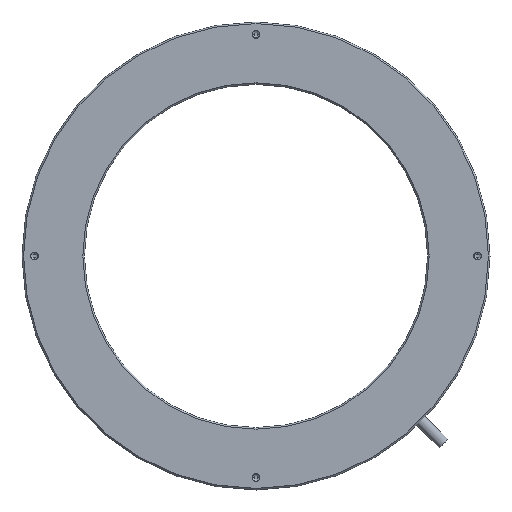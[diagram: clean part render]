
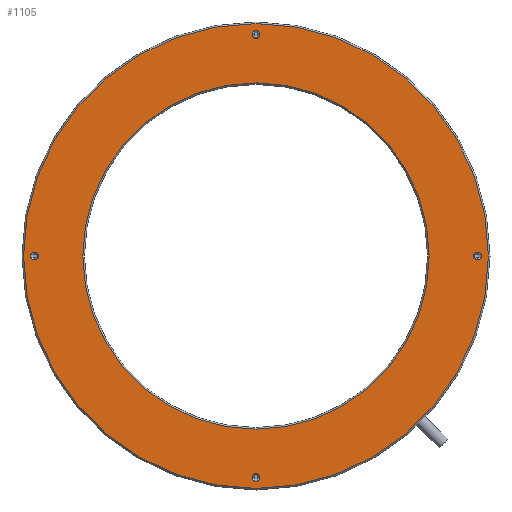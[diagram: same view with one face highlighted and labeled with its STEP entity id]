
A CAD part, front view. The second image highlights one B-rep face of the part: STEP entity #1105.
In plain terms, the highlighted planar face has unit normal (0, -1, 0).
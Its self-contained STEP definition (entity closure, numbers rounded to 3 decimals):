
#2 = CIRCLE ( 'NONE', #1653, 74.5 ) ;
#11 = EDGE_CURVE ( 'NONE', #514, #1169, #433, .T. ) ;
#28 = ORIENTED_EDGE ( 'NONE', *, *, #551, .F. ) ;
#33 = CARTESIAN_POINT ( 'NONE',  ( 0., 0., 0. ) ) ;
#74 = EDGE_CURVE ( 'NONE', #1365, #1877, #524, .T. ) ;
#78 = AXIS2_PLACEMENT_3D ( 'NONE', #373, #1434, #968 ) ;
#82 = CARTESIAN_POINT ( 'NONE',  ( 0., 0., -74.5 ) ) ;
#85 = CARTESIAN_POINT ( 'NONE',  ( -1.25, 0., 71. ) ) ;
#141 = AXIS2_PLACEMENT_3D ( 'NONE', #1996, #778, #593 ) ;
#168 = EDGE_CURVE ( 'NONE', #1893, #1624, #2, .T. ) ;
#179 = DIRECTION ( 'NONE',  ( 0., -1., 0. ) ) ;
#187 = VERTEX_POINT ( 'NONE', #1237 ) ;
#194 = DIRECTION ( 'NONE',  ( 0., 0., -1. ) ) ;
#241 = EDGE_CURVE ( 'NONE', #1624, #1893, #937, .T. ) ;
#245 = DIRECTION ( 'NONE',  ( 0., -1., 0. ) ) ;
#285 = AXIS2_PLACEMENT_3D ( 'NONE', #1186, #245, #1883 ) ;
#293 = ORIENTED_EDGE ( 'NONE', *, *, #241, .T. ) ;
#304 = FACE_OUTER_BOUND ( 'NONE', #660, .T. ) ;
#310 = CARTESIAN_POINT ( 'NONE',  ( 0., 0., 55.5 ) ) ;
#313 = AXIS2_PLACEMENT_3D ( 'NONE', #1110, #1070, #2222 ) ;
#318 = DIRECTION ( 'NONE',  ( -1., 0., 0. ) ) ;
#354 = ORIENTED_EDGE ( 'NONE', *, *, #74, .F. ) ;
#362 = CIRCLE ( 'NONE', #78, 1.25 ) ;
#368 = FACE_BOUND ( 'NONE', #1860, .T. ) ;
#373 = CARTESIAN_POINT ( 'NONE',  ( 0., 0., -71. ) ) ;
#377 = CARTESIAN_POINT ( 'NONE',  ( 71., 0., 0. ) ) ;
#433 = CIRCLE ( 'NONE', #1964, 1.25 ) ;
#437 = VERTEX_POINT ( 'NONE', #2053 ) ;
#449 = AXIS2_PLACEMENT_3D ( 'NONE', #467, #742, #1755 ) ;
#467 = CARTESIAN_POINT ( 'NONE',  ( 71., 0., 0. ) ) ;
#514 = VERTEX_POINT ( 'NONE', #85 ) ;
#524 = CIRCLE ( 'NONE', #141, 55.5 ) ;
#551 = EDGE_CURVE ( 'NONE', #1877, #1365, #1575, .T. ) ;
#560 = VERTEX_POINT ( 'NONE', #1868 ) ;
#575 = DIRECTION ( 'NONE',  ( 1., 0., 0. ) ) ;
#589 = CIRCLE ( 'NONE', #1078, 1.25 ) ;
#593 = DIRECTION ( 'NONE',  ( 0., 0., -1. ) ) ;
#602 = CARTESIAN_POINT ( 'NONE',  ( -1.25, 0., -71. ) ) ;
#608 = CARTESIAN_POINT ( 'NONE',  ( 1.25, 0., -71. ) ) ;
#637 = AXIS2_PLACEMENT_3D ( 'NONE', #1227, #1545, #318 ) ;
#660 = EDGE_LOOP ( 'NONE', ( #2237, #293 ) ) ;
#709 = DIRECTION ( 'NONE',  ( 0., -1., 0. ) ) ;
#742 = DIRECTION ( 'NONE',  ( 0., -1., 0. ) ) ;
#778 = DIRECTION ( 'NONE',  ( 0., -1., 0. ) ) ;
#792 = FACE_BOUND ( 'NONE', #2178, .T. ) ;
#820 = EDGE_LOOP ( 'NONE', ( #1823, #2070 ) ) ;
#823 = DIRECTION ( 'NONE',  ( 0., -1., 0. ) ) ;
#847 = AXIS2_PLACEMENT_3D ( 'NONE', #377, #179, #194 ) ;
#877 = ORIENTED_EDGE ( 'NONE', *, *, #1413, .F. ) ;
#906 = CARTESIAN_POINT ( 'NONE',  ( 0., 0., 0. ) ) ;
#937 = CIRCLE ( 'NONE', #2142, 74.5 ) ;
#968 = DIRECTION ( 'NONE',  ( -1., 0., 0. ) ) ;
#1014 = VERTEX_POINT ( 'NONE', #608 ) ;
#1045 = PLANE ( 'NONE',  #1349 ) ;
#1053 = DIRECTION ( 'NONE',  ( 0., -1., 0. ) ) ;
#1054 = ORIENTED_EDGE ( 'NONE', *, *, #11, .F. ) ;
#1058 = VERTEX_POINT ( 'NONE', #602 ) ;
#1069 = CARTESIAN_POINT ( 'NONE',  ( -71., 0., 0. ) ) ;
#1070 = DIRECTION ( 'NONE',  ( 0., -1., 0. ) ) ;
#1078 = AXIS2_PLACEMENT_3D ( 'NONE', #1069, #1053, #1079 ) ;
#1079 = DIRECTION ( 'NONE',  ( 0., 0., 1. ) ) ;
#1083 = DIRECTION ( 'NONE',  ( 0., -1., 0. ) ) ;
#1105 = ADVANCED_FACE ( 'NONE', ( #368, #1276, #792, #1694, #1181, #304 ), #1045, .F. ) ;
#1109 = AXIS2_PLACEMENT_3D ( 'NONE', #1887, #1918, #575 ) ;
#1110 = CARTESIAN_POINT ( 'NONE',  ( -71., 0., 0. ) ) ;
#1148 = ORIENTED_EDGE ( 'NONE', *, *, #1832, .F. ) ;
#1169 = VERTEX_POINT ( 'NONE', #1486 ) ;
#1181 = FACE_BOUND ( 'NONE', #1923, .T. ) ;
#1186 = CARTESIAN_POINT ( 'NONE',  ( 0., 0., 0. ) ) ;
#1227 = CARTESIAN_POINT ( 'NONE',  ( 0., 0., -71. ) ) ;
#1237 = CARTESIAN_POINT ( 'NONE',  ( -71., 0., -1.25 ) ) ;
#1276 = FACE_BOUND ( 'NONE', #1385, .T. ) ;
#1319 = CIRCLE ( 'NONE', #847, 1.25 ) ;
#1320 = ORIENTED_EDGE ( 'NONE', *, *, #1871, .F. ) ;
#1349 = AXIS2_PLACEMENT_3D ( 'NONE', #906, #2069, #2004 ) ;
#1365 = VERTEX_POINT ( 'NONE', #1977 ) ;
#1385 = EDGE_LOOP ( 'NONE', ( #2254, #1148 ) ) ;
#1413 = EDGE_CURVE ( 'NONE', #187, #560, #589, .T. ) ;
#1434 = DIRECTION ( 'NONE',  ( 0., -1., 0. ) ) ;
#1485 = CARTESIAN_POINT ( 'NONE',  ( 0., 0., 71. ) ) ;
#1486 = CARTESIAN_POINT ( 'NONE',  ( 1.25, 0., 71. ) ) ;
#1518 = CIRCLE ( 'NONE', #313, 1.25 ) ;
#1542 = EDGE_CURVE ( 'NONE', #1842, #437, #2212, .T. ) ;
#1545 = DIRECTION ( 'NONE',  ( 0., -1., 0. ) ) ;
#1575 = CIRCLE ( 'NONE', #285, 55.5 ) ;
#1624 = VERTEX_POINT ( 'NONE', #82 ) ;
#1625 = DIRECTION ( 'NONE',  ( 1., 0., 0. ) ) ;
#1646 = ORIENTED_EDGE ( 'NONE', *, *, #2201, .F. ) ;
#1653 = AXIS2_PLACEMENT_3D ( 'NONE', #33, #1083, #2125 ) ;
#1694 = FACE_BOUND ( 'NONE', #820, .T. ) ;
#1720 = CARTESIAN_POINT ( 'NONE',  ( 0., 0., 74.5 ) ) ;
#1748 = DIRECTION ( 'NONE',  ( 0., 0., -1. ) ) ;
#1755 = DIRECTION ( 'NONE',  ( 0., 0., -1. ) ) ;
#1823 = ORIENTED_EDGE ( 'NONE', *, *, #2047, .F. ) ;
#1832 = EDGE_CURVE ( 'NONE', #1014, #1058, #2189, .T. ) ;
#1842 = VERTEX_POINT ( 'NONE', #2253 ) ;
#1860 = EDGE_LOOP ( 'NONE', ( #1646, #877 ) ) ;
#1868 = CARTESIAN_POINT ( 'NONE',  ( -71., 0., 1.25 ) ) ;
#1871 = EDGE_CURVE ( 'NONE', #1169, #514, #2136, .T. ) ;
#1877 = VERTEX_POINT ( 'NONE', #310 ) ;
#1883 = DIRECTION ( 'NONE',  ( 0., 0., -1. ) ) ;
#1887 = CARTESIAN_POINT ( 'NONE',  ( 0., 0., 71. ) ) ;
#1893 = VERTEX_POINT ( 'NONE', #1720 ) ;
#1918 = DIRECTION ( 'NONE',  ( 0., -1., 0. ) ) ;
#1923 = EDGE_LOOP ( 'NONE', ( #354, #28 ) ) ;
#1935 = CARTESIAN_POINT ( 'NONE',  ( 0., 0., 0. ) ) ;
#1964 = AXIS2_PLACEMENT_3D ( 'NONE', #1485, #823, #1625 ) ;
#1977 = CARTESIAN_POINT ( 'NONE',  ( 0., 0., -55.5 ) ) ;
#1996 = CARTESIAN_POINT ( 'NONE',  ( 0., 0., 0. ) ) ;
#2004 = DIRECTION ( 'NONE',  ( 0., 0., 1. ) ) ;
#2047 = EDGE_CURVE ( 'NONE', #437, #1842, #1319, .T. ) ;
#2053 = CARTESIAN_POINT ( 'NONE',  ( 71., 0., -1.25 ) ) ;
#2069 = DIRECTION ( 'NONE',  ( 0., 1., 0. ) ) ;
#2070 = ORIENTED_EDGE ( 'NONE', *, *, #1542, .F. ) ;
#2125 = DIRECTION ( 'NONE',  ( 0., 0., -1. ) ) ;
#2136 = CIRCLE ( 'NONE', #1109, 1.25 ) ;
#2140 = EDGE_CURVE ( 'NONE', #1058, #1014, #362, .T. ) ;
#2142 = AXIS2_PLACEMENT_3D ( 'NONE', #1935, #709, #1748 ) ;
#2178 = EDGE_LOOP ( 'NONE', ( #1320, #1054 ) ) ;
#2189 = CIRCLE ( 'NONE', #637, 1.25 ) ;
#2201 = EDGE_CURVE ( 'NONE', #560, #187, #1518, .T. ) ;
#2212 = CIRCLE ( 'NONE', #449, 1.25 ) ;
#2222 = DIRECTION ( 'NONE',  ( 0., 0., 1. ) ) ;
#2237 = ORIENTED_EDGE ( 'NONE', *, *, #168, .T. ) ;
#2253 = CARTESIAN_POINT ( 'NONE',  ( 71., 0., 1.25 ) ) ;
#2254 = ORIENTED_EDGE ( 'NONE', *, *, #2140, .F. ) ;
